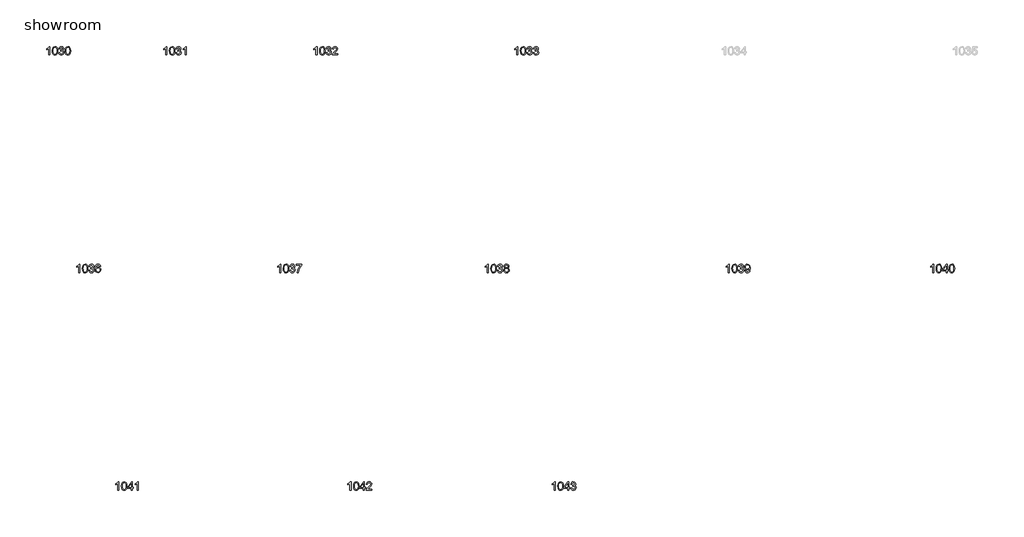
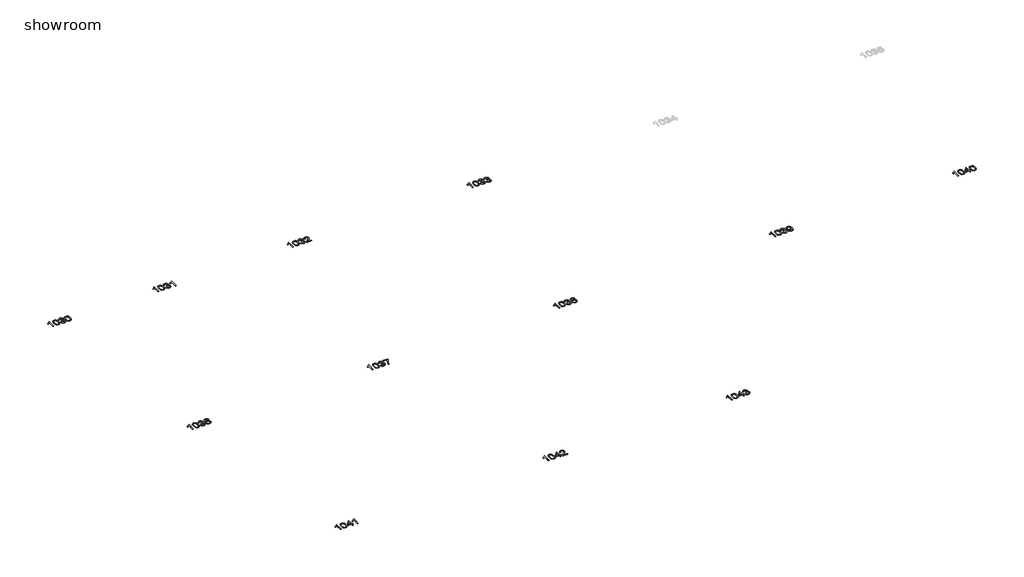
# One storey, part 1 of 2: 12 proxies.
"""IFC4 building model written with IfcOpenShell, lengths in millimetres."""

from ifc_helpers import new_model, si_unit, origin, origin_with_axes, place, context, project, spatial, polyline, outline, extrude, element, save

model = new_model("IFC4")

# Units and contexts
model_context = context("Model", 3, world=origin())
ifc_project = project(units=[si_unit("LENGTHUNIT", "METRE", prefix="MILLI")], contexts=[model_context])

# Site, building, storey
site = spatial("IfcSite", under=ifc_project)
building = spatial("IfcBuilding", under=site)
storey = spatial("IfcBuildingStorey", under=building, Name="showroom", Elevation=0.0)

# Proxies
placement = place(None, origin())
element("IfcBuildingElementProxy", 1, Name="100mm Arial", ObjectType="100mm Arial", at=placement, inside=storey, context=model_context, shape_type="SweptSolid", body=[
    extrude(outline(polyline([(-1708.1109609, 1015.1020807), (-1720.6679996, 1015.1020807), (-1720.6679996, 1093.3873692), (-1732.5628508, 1084.9138206), (-1745.7820772, 1078.5739876), (-1745.7820772, 1090.4443133), (-1727.3757147, 1102.1920117), (-1716.2043648, 1115.5583908), (-1708.1109609, 1115.5583908), (-1708.1109609, 1015.1020807)])), origin_with_axes(), (0.0, 0.0, 1.0), 2.0),
    extrude(outline(polyline([(-1678.2879938, 1064.5208954), (-1674.5969111, 1093.4241574), (-1663.6340277, 1110.0892118), (-1645.325767, 1115.5583908), (-1630.6595382, 1112.3210293), (-1620.5305206, 1102.9890893), (-1614.6444086, 1088.1266567), (-1612.3635403, 1064.5208954), (-1616.0178347, 1035.7402606), (-1626.94393, 1019.038418), (-1635.1752896, 1014.9089426), (-1645.325767, 1013.5324508), (-1658.3733151, 1015.9236838), (-1668.2816035, 1023.0973827), (-1675.7863962, 1040.0873995), (-1678.2879938, 1064.5208954)]), holes=[polyline([(-1665.730955, 1064.5454208), (-1664.259427, 1044.7932234), (-1659.8448431, 1033.3612904), (-1653.2720181, 1027.9074398), (-1645.325767, 1026.0894896), (-1637.3795159, 1027.9135712), (-1630.806691, 1033.3858158), (-1626.392107, 1044.8238802), (-1624.920579, 1064.5454208), (-1626.3430561, 1083.8530942), (-1630.6104872, 1095.373932), (-1637.1710495, 1101.094497), (-1645.4729198, 1103.0013521), (-1653.3333318, 1101.3213576), (-1659.6486394, 1096.2813743), (-1664.2103761, 1084.0431666), (-1665.730955, 1064.5454208)])]), origin_with_axes(), (0.0, 0.0, 1.0), 2.0),
    extrude(outline(polyline([(-1601.3761313, 1041.7857881), (-1588.8190926, 1043.3554179), (-1581.8906483, 1030.1361915), (-1568.9289394, 1026.0894896), (-1560.3205007, 1027.4813098), (-1553.6740993, 1031.6567705), (-1548.0087166, 1045.4400825), (-1553.6250484, 1058.426317), (-1567.8988698, 1063.5644022), (-1576.7035122, 1062.1909761), (-1575.3055606, 1074.7480148), (-1573.2944724, 1074.600862), (-1559.0451764, 1078.2061056), (-1554.2994987, 1082.7801051), (-1552.7176061, 1089.2916164), (-1557.3038683, 1099.1140656), (-1569.1251431, 1103.0013521), (-1581.0935707, 1099.0772774), (-1587.2494627, 1087.3050536), (-1599.8065015, 1088.8746834), (-1596.1092874, 1100.1502666), (-1589.5303311, 1108.5686329), (-1580.5294849, 1113.8109513), (-1569.5666015, 1115.5583908), (-1554.422126, 1112.1125628), (-1543.8271246, 1102.6947837), (-1540.1605673, 1090.0273804), (-1543.6431836, 1078.4513602), (-1553.9438794, 1070.1372272), (-1540.2586692, 1061.5533139), (-1535.4516778, 1045.2193533), (-1537.8551735, 1032.9811456), (-1545.0656606, 1022.7540262), (-1555.9488363, 1015.8378447), (-1569.3703978, 1013.5324508), (-1581.5105036, 1015.5006195), (-1591.3942665, 1021.4051255), (-1598.2675285, 1030.4366285), (-1601.3761313, 1041.7857881)])), origin_with_axes(), (0.0, 0.0, 1.0), 2.0),
    extrude(outline(polyline([(-1524.4642689, 1064.5208954), (-1520.7731862, 1093.4241574), (-1509.8103027, 1110.0892118), (-1491.5020421, 1115.5583908), (-1476.8358132, 1112.3210293), (-1466.7067956, 1102.9890893), (-1460.8206837, 1088.1266567), (-1458.5398153, 1064.5208954), (-1462.1941098, 1035.7402606), (-1473.1202051, 1019.038418), (-1481.3515647, 1014.9089426), (-1491.5020421, 1013.5324508), (-1504.5495902, 1015.9236838), (-1514.4578786, 1023.0973827), (-1521.9626713, 1040.0873995), (-1524.4642689, 1064.5208954)]), holes=[polyline([(-1511.9072301, 1064.5454208), (-1510.4357021, 1044.7932234), (-1506.0211182, 1033.3612904), (-1499.4482932, 1027.9074398), (-1491.5020421, 1026.0894896), (-1483.555791, 1027.9135712), (-1476.982966, 1033.3858158), (-1472.5683821, 1044.8238802), (-1471.0968541, 1064.5454208), (-1472.5193312, 1083.8530942), (-1476.7867623, 1095.373932), (-1483.3473246, 1101.094497), (-1491.6491949, 1103.0013521), (-1499.5096069, 1101.3213576), (-1505.8249145, 1096.2813743), (-1510.3866512, 1084.0431666), (-1511.9072301, 1064.5454208)])]), origin_with_axes(), (0.0, 0.0, 1.0), 2.0),
])
element("IfcBuildingElementProxy", 2, Name="100mm Arial", ObjectType="100mm Arial", at=placement, inside=storey, context=model_context, shape_type="SweptSolid", body=[
    extrude(outline(polyline([(-308.1109609, 1015.1020807), (-320.6679996, 1015.1020807), (-320.6679996, 1093.3873692), (-332.5628508, 1084.9138206), (-345.7820772, 1078.5739876), (-345.7820772, 1090.4443133), (-327.3757147, 1102.1920117), (-316.2043648, 1115.5583908), (-308.1109609, 1115.5583908), (-308.1109609, 1015.1020807)])), origin_with_axes(), (0.0, 0.0, 1.0), 2.0),
    extrude(outline(polyline([(-278.2879938, 1064.5208954), (-274.5969111, 1093.4241574), (-263.6340277, 1110.0892118), (-245.325767, 1115.5583908), (-230.6595382, 1112.3210293), (-220.5305206, 1102.9890893), (-214.6444086, 1088.1266567), (-212.3635403, 1064.5208954), (-216.0178347, 1035.7402606), (-226.94393, 1019.038418), (-235.1752896, 1014.9089426), (-245.325767, 1013.5324508), (-258.3733151, 1015.9236838), (-268.2816035, 1023.0973827), (-275.7863962, 1040.0873995), (-278.2879938, 1064.5208954)]), holes=[polyline([(-265.730955, 1064.5454208), (-264.259427, 1044.7932234), (-259.8448431, 1033.3612904), (-253.2720181, 1027.9074398), (-245.325767, 1026.0894896), (-237.3795159, 1027.9135712), (-230.806691, 1033.3858158), (-226.392107, 1044.8238802), (-224.920579, 1064.5454208), (-226.3430561, 1083.8530942), (-230.6104872, 1095.373932), (-237.1710495, 1101.094497), (-245.4729198, 1103.0013521), (-253.3333318, 1101.3213576), (-259.6486394, 1096.2813743), (-264.2103761, 1084.0431666), (-265.730955, 1064.5454208)])]), origin_with_axes(), (0.0, 0.0, 1.0), 2.0),
    extrude(outline(polyline([(-201.3761313, 1041.7857881), (-188.8190926, 1043.3554179), (-181.8906483, 1030.1361915), (-168.9289394, 1026.0894896), (-160.3205007, 1027.4813098), (-153.6740993, 1031.6567705), (-148.0087166, 1045.4400825), (-153.6250484, 1058.426317), (-167.8988698, 1063.5644022), (-176.7035122, 1062.1909761), (-175.3055606, 1074.7480148), (-173.2944724, 1074.600862), (-159.0451764, 1078.2061056), (-154.2994987, 1082.7801051), (-152.7176061, 1089.2916164), (-157.3038683, 1099.1140656), (-169.1251431, 1103.0013521), (-181.0935707, 1099.0772774), (-187.2494627, 1087.3050536), (-199.8065015, 1088.8746834), (-196.1092874, 1100.1502666), (-189.5303311, 1108.5686329), (-180.5294849, 1113.8109513), (-169.5666015, 1115.5583908), (-154.422126, 1112.1125628), (-143.8271246, 1102.6947837), (-140.1605673, 1090.0273804), (-143.6431836, 1078.4513602), (-153.9438794, 1070.1372272), (-140.2586692, 1061.5533139), (-135.4516778, 1045.2193533), (-137.8551735, 1032.9811456), (-145.0656606, 1022.7540262), (-155.9488363, 1015.8378447), (-169.3703978, 1013.5324508), (-181.5105036, 1015.5006195), (-191.3942665, 1021.4051255), (-198.2675285, 1030.4366285), (-201.3761313, 1041.7857881)])), origin_with_axes(), (0.0, 0.0, 1.0), 2.0),
    extrude(outline(polyline([(-77.3753735, 1015.1020807), (-89.9324123, 1015.1020807), (-89.9324123, 1093.3873692), (-101.8272634, 1084.9138206), (-115.0464898, 1078.5739876), (-115.0464898, 1090.4443133), (-96.6401273, 1102.1920117), (-85.4687774, 1115.5583908), (-77.3753735, 1115.5583908), (-77.3753735, 1015.1020807)])), origin_with_axes(), (0.0, 0.0, 1.0), 2.0),
])
element("IfcBuildingElementProxy", 3, Name="100mm Arial", ObjectType="100mm Arial", at=placement, inside=storey, context=model_context, shape_type="SweptSolid", body=[
    extrude(outline(polyline([(1485.5442765, 1015.1020807), (1472.9872377, 1015.1020807), (1472.9872377, 1093.3873692), (1461.0923866, 1084.9138206), (1447.8731602, 1078.5739876), (1447.8731602, 1090.4443133), (1466.2795227, 1102.1920117), (1477.4508726, 1115.5583908), (1485.5442765, 1115.5583908), (1485.5442765, 1015.1020807)])), origin_with_axes(), (0.0, 0.0, 1.0), 2.0),
    extrude(outline(polyline([(1515.3672436, 1064.5208954), (1519.0583263, 1093.4241574), (1530.0212097, 1110.0892118), (1548.3294703, 1115.5583908), (1562.9956992, 1112.3210293), (1573.1247168, 1102.9890893), (1579.0108287, 1088.1266567), (1581.2916971, 1064.5208954), (1577.6374026, 1035.7402606), (1566.7113074, 1019.038418), (1558.4799477, 1014.9089426), (1548.3294703, 1013.5324508), (1535.2819223, 1015.9236838), (1525.3736338, 1023.0973827), (1517.8688411, 1040.0873995), (1515.3672436, 1064.5208954)]), holes=[polyline([(1527.9242823, 1064.5454208), (1529.3958103, 1044.7932234), (1533.8103943, 1033.3612904), (1540.3832193, 1027.9074398), (1548.3294703, 1026.0894896), (1556.2757214, 1027.9135712), (1562.8485464, 1033.3858158), (1567.2631304, 1044.8238802), (1568.7346583, 1064.5454208), (1567.3121813, 1083.8530942), (1563.0447502, 1095.373932), (1556.4841879, 1101.094497), (1548.1823175, 1103.0013521), (1540.3219056, 1101.3213576), (1534.006598, 1096.2813743), (1529.4448613, 1084.0431666), (1527.9242823, 1064.5454208)])]), origin_with_axes(), (0.0, 0.0, 1.0), 2.0),
    extrude(outline(polyline([(1592.279106, 1041.7857881), (1604.8361448, 1043.3554179), (1611.764589, 1030.1361915), (1624.726298, 1026.0894896), (1633.3347367, 1027.4813098), (1639.9811381, 1031.6567705), (1645.6465208, 1045.4400825), (1640.030189, 1058.426317), (1625.7563676, 1063.5644022), (1616.9517252, 1062.1909761), (1618.3496768, 1074.7480148), (1620.360765, 1074.600862), (1634.610061, 1078.2061056), (1639.3557387, 1082.7801051), (1640.9376313, 1089.2916164), (1636.3513691, 1099.1140656), (1624.5300943, 1103.0013521), (1612.5616667, 1099.0772774), (1606.4057747, 1087.3050536), (1593.8487359, 1088.8746834), (1597.5459499, 1100.1502666), (1604.1249063, 1108.5686329), (1613.1257524, 1113.8109513), (1624.0886359, 1115.5583908), (1639.2331114, 1112.1125628), (1649.8281128, 1102.6947837), (1653.49467, 1090.0273804), (1650.0120538, 1078.4513602), (1639.7113579, 1070.1372272), (1653.3965682, 1061.5533139), (1658.2035596, 1045.2193533), (1655.8000639, 1032.9811456), (1648.5895768, 1022.7540262), (1637.7064011, 1015.8378447), (1624.2848396, 1013.5324508), (1612.1447338, 1015.5006195), (1602.2609708, 1021.4051255), (1595.3877089, 1030.4366285), (1592.279106, 1041.7857881)])), origin_with_axes(), (0.0, 0.0, 1.0), 2.0),
    extrude(outline(polyline([(1733.5457922, 1027.6591194), (1733.5457922, 1015.1020807), (1667.6213387, 1015.1020807), (1668.9702393, 1023.7595703), (1676.5976593, 1037.0891613), (1692.3184833, 1051.6450255), (1713.9989955, 1072.5652483), (1719.4191236, 1086.7900188), (1714.3055638, 1098.3047252), (1700.9514474, 1103.0013521), (1687.0332453, 1098.4150898), (1681.7480073, 1085.7354237), (1669.1909685, 1087.3050536), (1672.235192, 1099.4512908), (1678.817214, 1108.3233782), (1688.5936781, 1113.7496377), (1701.2212275, 1115.5583908), (1713.9407475, 1113.5473026), (1723.6988174, 1107.5140379), (1729.9068261, 1098.500929), (1731.9761623, 1087.5503083), (1729.7443449, 1075.6431943), (1722.3253913, 1063.3314102), (1704.3359618, 1046.1267956), (1689.8904621, 1034.0480034), (1684.2250794, 1027.6591194), (1733.5457922, 1027.6591194)])), origin_with_axes(), (0.0, 0.0, 1.0), 2.0),
])
element("IfcBuildingElementProxy", 4, Name="100mm Arial", ObjectType="100mm Arial", at=placement, inside=storey, context=model_context, shape_type="SweptSolid", body=[
    extrude(outline(polyline([(3885.5442765, 1015.1020807), (3872.9872377, 1015.1020807), (3872.9872377, 1093.3873692), (3861.0923866, 1084.9138206), (3847.8731602, 1078.5739876), (3847.8731602, 1090.4443133), (3866.2795227, 1102.1920117), (3877.4508726, 1115.5583908), (3885.5442765, 1115.5583908), (3885.5442765, 1015.1020807)])), origin_with_axes(), (0.0, 0.0, 1.0), 2.0),
    extrude(outline(polyline([(3915.3672436, 1064.5208954), (3919.0583263, 1093.4241574), (3930.0212097, 1110.0892118), (3948.3294703, 1115.5583908), (3962.9956992, 1112.3210293), (3973.1247168, 1102.9890893), (3979.0108287, 1088.1266567), (3981.2916971, 1064.5208954), (3977.6374026, 1035.7402606), (3966.7113074, 1019.038418), (3958.4799477, 1014.9089426), (3948.3294703, 1013.5324508), (3935.2819223, 1015.9236838), (3925.3736338, 1023.0973827), (3917.8688411, 1040.0873995), (3915.3672436, 1064.5208954)]), holes=[polyline([(3927.9242823, 1064.5454208), (3929.3958103, 1044.7932234), (3933.8103943, 1033.3612904), (3940.3832193, 1027.9074398), (3948.3294703, 1026.0894896), (3956.2757214, 1027.9135712), (3962.8485464, 1033.3858158), (3967.2631304, 1044.8238802), (3968.7346583, 1064.5454208), (3967.3121813, 1083.8530942), (3963.0447502, 1095.373932), (3956.4841879, 1101.094497), (3948.1823175, 1103.0013521), (3940.3219056, 1101.3213576), (3934.006598, 1096.2813743), (3929.4448613, 1084.0431666), (3927.9242823, 1064.5454208)])]), origin_with_axes(), (0.0, 0.0, 1.0), 2.0),
    extrude(outline(polyline([(3992.279106, 1041.7857881), (4004.8361448, 1043.3554179), (4011.764589, 1030.1361915), (4024.726298, 1026.0894896), (4033.3347367, 1027.4813098), (4039.9811381, 1031.6567705), (4045.6465208, 1045.4400825), (4040.030189, 1058.426317), (4025.7563676, 1063.5644022), (4016.9517252, 1062.1909761), (4018.3496768, 1074.7480148), (4020.360765, 1074.600862), (4034.610061, 1078.2061056), (4039.3557387, 1082.7801051), (4040.9376313, 1089.2916164), (4036.3513691, 1099.1140656), (4024.5300943, 1103.0013521), (4012.5616667, 1099.0772774), (4006.4057747, 1087.3050536), (3993.8487359, 1088.8746834), (3997.5459499, 1100.1502666), (4004.1249063, 1108.5686329), (4013.1257524, 1113.8109513), (4024.0886359, 1115.5583908), (4039.2331114, 1112.1125628), (4049.8281128, 1102.6947837), (4053.49467, 1090.0273804), (4050.0120538, 1078.4513602), (4039.7113579, 1070.1372272), (4053.3965682, 1061.5533139), (4058.2035596, 1045.2193533), (4055.8000639, 1032.9811456), (4048.5895768, 1022.7540262), (4037.7064011, 1015.8378447), (4024.2848396, 1013.5324508), (4012.1447338, 1015.5006195), (4002.2609708, 1021.4051255), (3995.3877089, 1030.4366285), (3992.279106, 1041.7857881)])), origin_with_axes(), (0.0, 0.0, 1.0), 2.0),
    extrude(outline(polyline([(4069.1909685, 1041.7857881), (4081.7480073, 1043.3554179), (4088.6764515, 1030.1361915), (4101.6381605, 1026.0894896), (4110.2465992, 1027.4813098), (4116.8930005, 1031.6567705), (4122.5583833, 1045.4400825), (4116.9420515, 1058.426317), (4102.6682301, 1063.5644022), (4093.8635876, 1062.1909761), (4095.2615392, 1074.7480148), (4097.2726275, 1074.600862), (4111.5219234, 1078.2061056), (4116.2676011, 1082.7801051), (4117.8494937, 1089.2916164), (4113.2632315, 1099.1140656), (4101.4419567, 1103.0013521), (4089.4735292, 1099.0772774), (4083.3176371, 1087.3050536), (4070.7605983, 1088.8746834), (4074.4578124, 1100.1502666), (4081.0367687, 1108.5686329), (4090.0376149, 1113.8109513), (4101.0004983, 1115.5583908), (4116.1449738, 1112.1125628), (4126.7399753, 1102.6947837), (4130.4065325, 1090.0273804), (4126.9239163, 1078.4513602), (4116.6232204, 1070.1372272), (4130.3084306, 1061.5533139), (4135.115422, 1045.2193533), (4132.7119263, 1032.9811456), (4125.5014392, 1022.7540262), (4114.6182635, 1015.8378447), (4101.1967021, 1013.5324508), (4089.0565962, 1015.5006195), (4079.1728333, 1021.4051255), (4072.2995714, 1030.4366285), (4069.1909685, 1041.7857881)])), origin_with_axes(), (0.0, 0.0, 1.0), 2.0),
])
element("IfcBuildingElementProxy", 5, Name="100mm Arial", ObjectType="100mm Arial", at=placement, inside=storey, context=model_context, shape_type="SweptSolid", body=[
    extrude(outline(polyline([(-1348.1109609, -1584.8979193), (-1360.6679996, -1584.8979193), (-1360.6679996, -1506.6126308), (-1372.5628508, -1515.0861794), (-1385.7820772, -1521.4260124), (-1385.7820772, -1509.5556867), (-1367.3757147, -1497.8079883), (-1356.2043648, -1484.4416092), (-1348.1109609, -1484.4416092), (-1348.1109609, -1584.8979193)])), origin_with_axes(), (0.0, 0.0, 1.0), 2.0),
    extrude(outline(polyline([(-1318.2879938, -1535.4791046), (-1314.5969111, -1506.5758426), (-1303.6340277, -1489.9107882), (-1285.325767, -1484.4416092), (-1270.6595382, -1487.6789707), (-1260.5305206, -1497.0109107), (-1254.6444086, -1511.8733433), (-1252.3635403, -1535.4791046), (-1256.0178347, -1564.2597394), (-1266.94393, -1580.961582), (-1275.1752896, -1585.0910574), (-1285.325767, -1586.4675492), (-1298.3733151, -1584.0763162), (-1308.2816035, -1576.9026173), (-1315.7863962, -1559.9126005), (-1318.2879938, -1535.4791046)]), holes=[polyline([(-1305.730955, -1535.4545792), (-1304.259427, -1555.2067766), (-1299.8448431, -1566.6387096), (-1293.2720181, -1572.0925602), (-1285.325767, -1573.9105104), (-1277.3795159, -1572.0864288), (-1270.806691, -1566.6141842), (-1266.392107, -1555.1761198), (-1264.920579, -1535.4545792), (-1266.3430561, -1516.1469058), (-1270.6104872, -1504.626068), (-1277.1710495, -1498.905503), (-1285.4729198, -1496.9986479), (-1293.3333318, -1498.6786424), (-1299.6486394, -1503.7186257), (-1304.2103761, -1515.9568334), (-1305.730955, -1535.4545792)])]), origin_with_axes(), (0.0, 0.0, 1.0), 2.0),
    extrude(outline(polyline([(-1241.3761313, -1558.2142119), (-1228.8190926, -1556.6445821), (-1221.8906483, -1569.8638085), (-1208.9289394, -1573.9105104), (-1200.3205007, -1572.5186902), (-1193.6740993, -1568.3432295), (-1188.0087166, -1554.5599175), (-1193.6250484, -1541.573683), (-1207.8988698, -1536.4355978), (-1216.7035122, -1537.8090239), (-1215.3055606, -1525.2519852), (-1213.2944724, -1525.399138), (-1199.0451764, -1521.7938944), (-1194.2994987, -1517.2198949), (-1192.7176061, -1510.7083836), (-1197.3038683, -1500.8859344), (-1209.1251431, -1496.9986479), (-1221.0935707, -1500.9227226), (-1227.2494627, -1512.6949464), (-1239.8065015, -1511.1253166), (-1236.1092874, -1499.8497334), (-1229.5303311, -1491.4313671), (-1220.5294849, -1486.1890487), (-1209.5666015, -1484.4416092), (-1194.422126, -1487.8874372), (-1183.8271246, -1497.3052163), (-1180.1605673, -1509.9726196), (-1183.6431836, -1521.5486398), (-1193.9438794, -1529.8627728), (-1180.2586692, -1538.4466861), (-1175.4516778, -1554.7806467), (-1177.8551735, -1567.0188544), (-1185.0656606, -1577.2459738), (-1195.9488363, -1584.1621553), (-1209.3703978, -1586.4675492), (-1221.5105036, -1584.4993805), (-1231.3942665, -1578.5948745), (-1238.2675285, -1569.5633715), (-1241.3761313, -1558.2142119)])), origin_with_axes(), (0.0, 0.0, 1.0), 2.0),
    extrude(outline(polyline([(-1100.1094452, -1511.1253166), (-1112.666484, -1512.6949464), (-1117.4244244, -1502.2225723), (-1130.0059887, -1496.9986479), (-1141.3367541, -1500.0398058), (-1149.9084046, -1511.4564104), (-1153.47686, -1533.8358984), (-1142.4036119, -1523.8172454), (-1128.6816135, -1520.5430956), (-1117.0810679, -1522.7810444), (-1107.3444578, -1529.4948909), (-1100.740976, -1539.7526672), (-1098.5398153, -1552.6224056), (-1102.6846192, -1569.9496476), (-1114.088961, -1582.2123808), (-1130.5455489, -1586.4675492), (-1144.7917792, -1583.6471205), (-1156.1378731, -1575.1858347), (-1163.5598923, -1560.2498257), (-1166.0338987, -1538.0052277), (-1163.2870465, -1512.9953834), (-1155.0464898, -1495.895002), (-1143.7954321, -1487.3049574), (-1129.2211737, -1484.4416092), (-1118.203108, -1486.2135741), (-1109.3800715, -1491.529469), (-1103.199654, -1499.9723607), (-1100.1094452, -1511.1253166)]), holes=[polyline([(-1153.47686, -1552.4262019), (-1150.5705922, -1563.3032462), (-1142.8450703, -1571.2004464), (-1131.5265676, -1573.9105104), (-1123.2400256, -1572.5064275), (-1116.7254486, -1568.2941786), (-1112.5040027, -1561.6723027), (-1111.0968541, -1553.0393385), (-1112.4856086, -1544.7527966), (-1116.6518722, -1538.4344233), (-1123.2768138, -1534.4337066), (-1132.0416024, -1533.1001344), (-1147.2351288, -1538.4344233), (-1151.9164272, -1544.5995124), (-1153.47686, -1552.4262019)])]), origin_with_axes(), (0.0, 0.0, 1.0), 2.0),
])
element("IfcBuildingElementProxy", 6, Name="100mm Arial", ObjectType="100mm Arial", at=placement, inside=storey, context=model_context, shape_type="SweptSolid", body=[
    extrude(outline(polyline([(1051.8890391, -1584.8979193), (1039.3320004, -1584.8979193), (1039.3320004, -1506.6126308), (1027.4371492, -1515.0861794), (1014.2179228, -1521.4260124), (1014.2179228, -1509.5556867), (1032.6242853, -1497.8079883), (1043.7956352, -1484.4416092), (1051.8890391, -1484.4416092), (1051.8890391, -1584.8979193)])), origin_with_axes(), (0.0, 0.0, 1.0), 2.0),
    extrude(outline(polyline([(1081.7120062, -1535.4791046), (1085.4030889, -1506.5758426), (1096.3659723, -1489.9107882), (1114.674233, -1484.4416092), (1129.3404618, -1487.6789707), (1139.4694794, -1497.0109107), (1145.3555914, -1511.8733433), (1147.6364597, -1535.4791046), (1143.9821653, -1564.2597394), (1133.05607, -1580.961582), (1124.8247104, -1585.0910574), (1114.674233, -1586.4675492), (1101.6266849, -1584.0763162), (1091.7183965, -1576.9026173), (1084.2136038, -1559.9126005), (1081.7120062, -1535.4791046)]), holes=[polyline([(1094.269045, -1535.4545792), (1095.740573, -1555.2067766), (1100.1551569, -1566.6387096), (1106.7279819, -1572.0925602), (1114.674233, -1573.9105104), (1122.6204841, -1572.0864288), (1129.193309, -1566.6141842), (1133.607893, -1555.1761198), (1135.079421, -1535.4545792), (1133.6569439, -1516.1469058), (1129.3895128, -1504.626068), (1122.8289505, -1498.905503), (1114.5270802, -1496.9986479), (1106.6666682, -1498.6786424), (1100.3513606, -1503.7186257), (1095.7896239, -1515.9568334), (1094.269045, -1535.4545792)])]), origin_with_axes(), (0.0, 0.0, 1.0), 2.0),
    extrude(outline(polyline([(1158.6238687, -1558.2142119), (1171.1809074, -1556.6445821), (1178.1093517, -1569.8638085), (1191.0710606, -1573.9105104), (1199.6794993, -1572.5186902), (1206.3259007, -1568.3432295), (1211.9912834, -1554.5599175), (1206.3749516, -1541.573683), (1192.1011302, -1536.4355978), (1183.2964878, -1537.8090239), (1184.6944394, -1525.2519852), (1186.7055276, -1525.399138), (1200.9548236, -1521.7938944), (1205.7005013, -1517.2198949), (1207.2823939, -1510.7083836), (1202.6961317, -1500.8859344), (1190.8748569, -1496.9986479), (1178.9064293, -1500.9227226), (1172.7505373, -1512.6949464), (1160.1934985, -1511.1253166), (1163.8907126, -1499.8497334), (1170.4696689, -1491.4313671), (1179.4705151, -1486.1890487), (1190.4333985, -1484.4416092), (1205.577874, -1487.8874372), (1216.1728754, -1497.3052163), (1219.8394327, -1509.9726196), (1216.3568164, -1521.5486398), (1206.0561206, -1529.8627728), (1219.7413308, -1538.4466861), (1224.5483222, -1554.7806467), (1222.1448265, -1567.0188544), (1214.9343394, -1577.2459738), (1204.0511637, -1584.1621553), (1190.6296022, -1586.4675492), (1178.4894964, -1584.4993805), (1168.6057335, -1578.5948745), (1161.7324715, -1569.5633715), (1158.6238687, -1558.2142119)])), origin_with_axes(), (0.0, 0.0, 1.0), 2.0),
    extrude(outline(polyline([(1235.5357311, -1498.5682778), (1235.5357311, -1486.011239), (1301.4601847, -1486.011239), (1301.4601847, -1496.1647821), (1282.7595166, -1523.1795833), (1268.448907, -1557.6010753), (1263.7890683, -1584.8979193), (1251.2320296, -1584.8979193), (1256.222962, -1556.5710057), (1269.9204349, -1524.5530094), (1288.9031459, -1498.5682778), (1235.5357311, -1498.5682778)])), origin_with_axes(), (0.0, 0.0, 1.0), 2.0),
])
element("IfcBuildingElementProxy", 7, Name="100mm Arial", ObjectType="100mm Arial", at=placement, inside=storey, context=model_context, shape_type="SweptSolid", body=[
    extrude(outline(polyline([(3531.8890391, -1584.8979193), (3519.3320004, -1584.8979193), (3519.3320004, -1506.6126308), (3507.4371492, -1515.0861794), (3494.2179228, -1521.4260124), (3494.2179228, -1509.5556867), (3512.6242853, -1497.8079883), (3523.7956352, -1484.4416092), (3531.8890391, -1484.4416092), (3531.8890391, -1584.8979193)])), origin_with_axes(), (0.0, 0.0, 1.0), 2.0),
    extrude(outline(polyline([(3561.7120062, -1535.4791046), (3565.4030889, -1506.5758426), (3576.3659723, -1489.9107882), (3594.674233, -1484.4416092), (3609.3404618, -1487.6789707), (3619.4694794, -1497.0109107), (3625.3555914, -1511.8733433), (3627.6364597, -1535.4791046), (3623.9821653, -1564.2597394), (3613.05607, -1580.961582), (3604.8247104, -1585.0910574), (3594.674233, -1586.4675492), (3581.6266849, -1584.0763162), (3571.7183965, -1576.9026173), (3564.2136038, -1559.9126005), (3561.7120062, -1535.4791046)]), holes=[polyline([(3574.269045, -1535.4545792), (3575.740573, -1555.2067766), (3580.1551569, -1566.6387096), (3586.7279819, -1572.0925602), (3594.674233, -1573.9105104), (3602.6204841, -1572.0864288), (3609.193309, -1566.6141842), (3613.607893, -1555.1761198), (3615.079421, -1535.4545792), (3613.6569439, -1516.1469058), (3609.3895128, -1504.626068), (3602.8289505, -1498.905503), (3594.5270802, -1496.9986479), (3586.6666682, -1498.6786424), (3580.3513606, -1503.7186257), (3575.7896239, -1515.9568334), (3574.269045, -1535.4545792)])]), origin_with_axes(), (0.0, 0.0, 1.0), 2.0),
    extrude(outline(polyline([(3638.6238687, -1558.2142119), (3651.1809074, -1556.6445821), (3658.1093517, -1569.8638085), (3671.0710606, -1573.9105104), (3679.6794993, -1572.5186902), (3686.3259007, -1568.3432295), (3691.9912834, -1554.5599175), (3686.3749516, -1541.573683), (3672.1011302, -1536.4355978), (3663.2964878, -1537.8090239), (3664.6944394, -1525.2519852), (3666.7055276, -1525.399138), (3680.9548236, -1521.7938944), (3685.7005013, -1517.2198949), (3687.2823939, -1510.7083836), (3682.6961317, -1500.8859344), (3670.8748569, -1496.9986479), (3658.9064293, -1500.9227226), (3652.7505373, -1512.6949464), (3640.1934985, -1511.1253166), (3643.8907126, -1499.8497334), (3650.4696689, -1491.4313671), (3659.4705151, -1486.1890487), (3670.4333985, -1484.4416092), (3685.577874, -1487.8874372), (3696.1728754, -1497.3052163), (3699.8394327, -1509.9726196), (3696.3568164, -1521.5486398), (3686.0561206, -1529.8627728), (3699.7413308, -1538.4466861), (3704.5483222, -1554.7806467), (3702.1448265, -1567.0188544), (3694.9343394, -1577.2459738), (3684.0511637, -1584.1621553), (3670.6296022, -1586.4675492), (3658.4894964, -1584.4993805), (3648.6057335, -1578.5948745), (3641.7324715, -1569.5633715), (3638.6238687, -1558.2142119)])), origin_with_axes(), (0.0, 0.0, 1.0), 2.0),
    extrude(outline(polyline([(3733.831729, -1529.5684673), (3722.390599, -1521.769369), (3718.6749908, -1509.6292631), (3720.6983418, -1499.8129452), (3726.7683947, -1491.7011472), (3736.2045679, -1486.2564937), (3748.3262796, -1484.4416092), (3760.5215678, -1486.2994133), (3770.0803683, -1491.8728255), (3776.2607858, -1500.1133822), (3778.320925, -1509.9726196), (3774.6543677, -1521.8061572), (3763.5320688, -1529.5684673), (3776.8861852, -1539.415442), (3781.4601847, -1555.6635634), (3779.191579, -1567.6687792), (3772.3857621, -1577.5893304), (3761.8765998, -1584.2479945), (3748.4979579, -1586.4675492), (3735.119316, -1584.2387974), (3724.6101537, -1577.5525422), (3717.8043368, -1567.5369548), (3715.5357311, -1555.3202069), (3720.2936716, -1538.6919407), (3733.831729, -1529.5684673)]), holes=[polyline([(3728.0927699, -1554.8787485), (3730.1896973, -1564.3333158), (3737.6086508, -1571.4089128), (3748.5960598, -1573.9105104), (3757.1431848, -1572.5953323), (3763.5565942, -1568.6497979), (3768.9031459, -1555.271156), (3763.384916, -1541.6349967), (3756.8243537, -1537.5882947), (3748.1791268, -1536.2393941), (3739.7515635, -1537.5699006), (3733.4025334, -1541.5614203), (3728.0927699, -1554.8787485)]), polyline([(3731.2320296, -1509.9971451), (3735.6834017, -1519.8563826), (3748.6451107, -1523.6823553), (3761.3493023, -1519.880908), (3765.7638862, -1510.5612308), (3761.2021495, -1500.9104598), (3748.4979579, -1496.9986479), (3735.7569781, -1500.8246207), (3731.2320296, -1509.9971451)])]), origin_with_axes(), (0.0, 0.0, 1.0), 2.0),
])
element("IfcBuildingElementProxy", 8, Name="100mm Arial", ObjectType="100mm Arial", at=placement, inside=storey, context=model_context, shape_type="SweptSolid", body=[
    extrude(outline(polyline([(6411.8890391, -1584.8979193), (6399.3320004, -1584.8979193), (6399.3320004, -1506.6126308), (6387.4371492, -1515.0861794), (6374.2179228, -1521.4260124), (6374.2179228, -1509.5556867), (6392.6242853, -1497.8079883), (6403.7956352, -1484.4416092), (6411.8890391, -1484.4416092), (6411.8890391, -1584.8979193)])), origin_with_axes(), (0.0, 0.0, 1.0), 2.0),
    extrude(outline(polyline([(6441.7120062, -1535.4791046), (6445.4030889, -1506.5758426), (6456.3659723, -1489.9107882), (6474.674233, -1484.4416092), (6489.3404618, -1487.6789707), (6499.4694794, -1497.0109107), (6505.3555914, -1511.8733433), (6507.6364597, -1535.4791046), (6503.9821653, -1564.2597394), (6493.05607, -1580.961582), (6484.8247104, -1585.0910574), (6474.674233, -1586.4675492), (6461.6266849, -1584.0763162), (6451.7183965, -1576.9026173), (6444.2136038, -1559.9126005), (6441.7120062, -1535.4791046)]), holes=[polyline([(6454.269045, -1535.4545792), (6455.740573, -1555.2067766), (6460.1551569, -1566.6387096), (6466.7279819, -1572.0925602), (6474.674233, -1573.9105104), (6482.6204841, -1572.0864288), (6489.193309, -1566.6141842), (6493.607893, -1555.1761198), (6495.079421, -1535.4545792), (6493.6569439, -1516.1469058), (6489.3895128, -1504.626068), (6482.8289505, -1498.905503), (6474.5270802, -1496.9986479), (6466.6666682, -1498.6786424), (6460.3513606, -1503.7186257), (6455.7896239, -1515.9568334), (6454.269045, -1535.4545792)])]), origin_with_axes(), (0.0, 0.0, 1.0), 2.0),
    extrude(outline(polyline([(6518.6238687, -1558.2142119), (6531.1809074, -1556.6445821), (6538.1093517, -1569.8638085), (6551.0710606, -1573.9105104), (6559.6794993, -1572.5186902), (6566.3259007, -1568.3432295), (6571.9912834, -1554.5599175), (6566.3749516, -1541.573683), (6552.1011302, -1536.4355978), (6543.2964878, -1537.8090239), (6544.6944394, -1525.2519852), (6546.7055276, -1525.399138), (6560.9548236, -1521.7938944), (6565.7005013, -1517.2198949), (6567.2823939, -1510.7083836), (6562.6961317, -1500.8859344), (6550.8748569, -1496.9986479), (6538.9064293, -1500.9227226), (6532.7505373, -1512.6949464), (6520.1934985, -1511.1253166), (6523.8907126, -1499.8497334), (6530.4696689, -1491.4313671), (6539.4705151, -1486.1890487), (6550.4333985, -1484.4416092), (6565.577874, -1487.8874372), (6576.1728754, -1497.3052163), (6579.8394327, -1509.9726196), (6576.3568164, -1521.5486398), (6566.0561206, -1529.8627728), (6579.7413308, -1538.4466861), (6584.5483222, -1554.7806467), (6582.1448265, -1567.0188544), (6574.9343394, -1577.2459738), (6564.0511637, -1584.1621553), (6550.6296022, -1586.4675492), (6538.4894964, -1584.4993805), (6528.6057335, -1578.5948745), (6521.7324715, -1569.5633715), (6518.6238687, -1558.2142119)])), origin_with_axes(), (0.0, 0.0, 1.0), 2.0),
    extrude(outline(polyline([(6597.105361, -1559.7838418), (6609.6623997, -1558.2142119), (6615.303257, -1570.1949023), (6625.9963603, -1573.9105104), (6636.1621661, -1571.5192774), (6643.0538222, -1565.1303935), (6647.1618378, -1554.2165609), (6648.9767223, -1539.6484339), (6648.9031459, -1537.1958873), (6638.8599674, -1546.7117682), (6625.0889181, -1550.3660627), (6613.638591, -1548.1342453), (6604.1073816, -1541.438793), (6597.6786437, -1531.0951775), (6595.5357311, -1517.9188707), (6597.782877, -1504.3072369), (6604.5243145, -1493.6386591), (6614.6502665, -1486.7408716), (6627.0509554, -1484.4416092), (6644.9422831, -1489.690059), (6657.2540672, -1504.6505934), (6661.4601847, -1532.7567779), (6657.2663299, -1563.2541953), (6652.0516026, -1573.2452571), (6644.7951303, -1580.5323863), (6635.8096125, -1584.9837585), (6625.4077491, -1586.4675492), (6614.6717262, -1584.717044), (6606.1062071, -1579.4655285), (6600.115862, -1571.0440965), (6597.105361, -1559.7838418)]), holes=[polyline([(6648.9031459, -1517.6245651), (6647.5481139, -1509.1142283), (6643.4830178, -1502.5659288), (6637.1738416, -1498.3904682), (6629.0865691, -1496.9986479), (6620.6988596, -1498.4977671), (6613.9788818, -1502.9951245), (6609.5642979, -1509.8775835), (6608.0927699, -1518.5320074), (6609.4845901, -1526.2912518), (6613.6600507, -1532.4502095), (6620.2144816, -1536.4693203), (6628.7432125, -1537.8090239), (6643.2255004, -1532.4502095), (6647.4837345, -1526.0643912), (6648.9031459, -1517.6245651)])]), origin_with_axes(), (0.0, 0.0, 1.0), 2.0),
])
element("IfcBuildingElementProxy", 9, Name="100mm Arial", ObjectType="100mm Arial", at=placement, inside=storey, context=model_context, shape_type="SweptSolid", body=[
    extrude(outline(polyline([(8851.8890391, -1584.8979193), (8839.3320004, -1584.8979193), (8839.3320004, -1506.6126308), (8827.4371492, -1515.0861794), (8814.2179228, -1521.4260124), (8814.2179228, -1509.5556867), (8832.6242853, -1497.8079883), (8843.7956352, -1484.4416092), (8851.8890391, -1484.4416092), (8851.8890391, -1584.8979193)])), origin_with_axes(), (0.0, 0.0, 1.0), 2.0),
    extrude(outline(polyline([(8881.7120062, -1535.4791046), (8885.4030889, -1506.5758426), (8896.3659723, -1489.9107882), (8914.674233, -1484.4416092), (8929.3404618, -1487.6789707), (8939.4694794, -1497.0109107), (8945.3555914, -1511.8733433), (8947.6364597, -1535.4791046), (8943.9821653, -1564.2597394), (8933.05607, -1580.961582), (8924.8247104, -1585.0910574), (8914.674233, -1586.4675492), (8901.6266849, -1584.0763162), (8891.7183965, -1576.9026173), (8884.2136038, -1559.9126005), (8881.7120062, -1535.4791046)]), holes=[polyline([(8894.269045, -1535.4545792), (8895.740573, -1555.2067766), (8900.1551569, -1566.6387096), (8906.7279819, -1572.0925602), (8914.674233, -1573.9105104), (8922.6204841, -1572.0864288), (8929.193309, -1566.6141842), (8933.607893, -1555.1761198), (8935.079421, -1535.4545792), (8933.6569439, -1516.1469058), (8929.3895128, -1504.626068), (8922.8289505, -1498.905503), (8914.5270802, -1496.9986479), (8906.6666682, -1498.6786424), (8900.3513606, -1503.7186257), (8895.7896239, -1515.9568334), (8894.269045, -1535.4545792)])]), origin_with_axes(), (0.0, 0.0, 1.0), 2.0),
    extrude(outline(polyline([(8999.4342447, -1584.8979193), (8999.4342447, -1561.3534716), (8953.9149791, -1561.3534716), (8953.9149791, -1548.7964329), (9002.5735044, -1486.011239), (9011.9912834, -1486.011239), (9011.9912834, -1548.7964329), (9024.5483222, -1548.7964329), (9024.5483222, -1561.3534716), (9011.9912834, -1561.3534716), (9011.9912834, -1584.8979193), (8999.4342447, -1584.8979193)]), holes=[polyline([(8999.4342447, -1548.7964329), (8999.4342447, -1509.9971451), (8969.3660229, -1548.7964329), (8999.4342447, -1548.7964329)])]), origin_with_axes(), (0.0, 0.0, 1.0), 2.0),
    extrude(outline(polyline([(9035.5357311, -1535.4791046), (9039.2268138, -1506.5758426), (9050.1896973, -1489.9107882), (9068.4979579, -1484.4416092), (9083.1641868, -1487.6789707), (9093.2932044, -1497.0109107), (9099.1793163, -1511.8733433), (9101.4601847, -1535.4791046), (9097.8058902, -1564.2597394), (9086.8797949, -1580.961582), (9078.6484353, -1585.0910574), (9068.4979579, -1586.4675492), (9055.4504098, -1584.0763162), (9045.5421214, -1576.9026173), (9038.0373287, -1559.9126005), (9035.5357311, -1535.4791046)]), holes=[polyline([(9048.0927699, -1535.4545792), (9049.5642979, -1555.2067766), (9053.9788818, -1566.6387096), (9060.5517068, -1572.0925602), (9068.4979579, -1573.9105104), (9076.444209, -1572.0864288), (9083.017034, -1566.6141842), (9087.4316179, -1555.1761198), (9088.9031459, -1535.4545792), (9087.4806688, -1516.1469058), (9083.2132377, -1504.626068), (9076.6526754, -1498.905503), (9068.3508051, -1496.9986479), (9060.4903931, -1498.6786424), (9054.1750855, -1503.7186257), (9049.6133488, -1515.9568334), (9048.0927699, -1535.4545792)])]), origin_with_axes(), (0.0, 0.0, 1.0), 2.0),
])
element("IfcBuildingElementProxy", 10, Name="100mm Arial", ObjectType="100mm Arial", at=placement, inside=storey, context=model_context, shape_type="SweptSolid", body=[
    extrude(outline(polyline([(-880.463511, -4184.8979193), (-893.0205498, -4184.8979193), (-893.0205498, -4106.6126308), (-904.915401, -4115.0861794), (-918.1346273, -4121.4260124), (-918.1346273, -4109.5556867), (-899.7282649, -4097.8079883), (-888.5569149, -4084.4416092), (-880.463511, -4084.4416092), (-880.463511, -4184.8979193)])), origin_with_axes(), (0.0, 0.0, 1.0), 2.0),
    extrude(outline(polyline([(-850.640544, -4135.4791046), (-846.9494613, -4106.5758426), (-835.9865778, -4089.9107882), (-817.6783172, -4084.4416092), (-803.0120883, -4087.6789707), (-792.8830707, -4097.0109107), (-786.9969588, -4111.8733433), (-784.7160904, -4135.4791046), (-788.3703849, -4164.2597394), (-799.2964802, -4180.961582), (-807.5278398, -4185.0910574), (-817.6783172, -4186.4675492), (-830.7258653, -4184.0763162), (-840.6341537, -4176.9026173), (-848.1389464, -4159.9126005), (-850.640544, -4135.4791046)]), holes=[polyline([(-838.0835052, -4135.4545792), (-836.6119772, -4155.2067766), (-832.1973933, -4166.6387096), (-825.6245683, -4172.0925602), (-817.6783172, -4173.9105104), (-809.7320661, -4172.0864288), (-803.1592411, -4166.6141842), (-798.7446572, -4155.1761198), (-797.2731292, -4135.4545792), (-798.6956062, -4116.1469058), (-802.9630374, -4104.626068), (-809.5235996, -4098.905503), (-817.82547, -4096.9986479), (-825.685882, -4098.6786424), (-832.0011895, -4103.7186257), (-836.5629263, -4115.9568334), (-838.0835052, -4135.4545792)])]), origin_with_axes(), (0.0, 0.0, 1.0), 2.0),
    extrude(outline(polyline([(-732.9183055, -4184.8979193), (-732.9183055, -4161.3534716), (-778.437571, -4161.3534716), (-778.437571, -4148.7964329), (-729.7790458, -4086.011239), (-720.3612667, -4086.011239), (-720.3612667, -4148.7964329), (-707.804228, -4148.7964329), (-707.804228, -4161.3534716), (-720.3612667, -4161.3534716), (-720.3612667, -4184.8979193), (-732.9183055, -4184.8979193)]), holes=[polyline([(-732.9183055, -4148.7964329), (-732.9183055, -4109.9971451), (-762.9865272, -4148.7964329), (-732.9183055, -4148.7964329)])]), origin_with_axes(), (0.0, 0.0, 1.0), 2.0),
    extrude(outline(polyline([(-649.7279237, -4184.8979193), (-662.2849624, -4184.8979193), (-662.2849624, -4106.6126308), (-674.1798136, -4115.0861794), (-687.39904, -4121.4260124), (-687.39904, -4109.5556867), (-668.9926775, -4097.8079883), (-657.8213276, -4084.4416092), (-649.7279237, -4084.4416092), (-649.7279237, -4184.8979193)])), origin_with_axes(), (0.0, 0.0, 1.0), 2.0),
])
element("IfcBuildingElementProxy", 11, Name="100mm Arial", ObjectType="100mm Arial", at=placement, inside=storey, context=model_context, shape_type="SweptSolid", body=[
    extrude(outline(polyline([(1891.8890391, -4184.8979193), (1879.3320004, -4184.8979193), (1879.3320004, -4106.6126308), (1867.4371492, -4115.0861794), (1854.2179228, -4121.4260124), (1854.2179228, -4109.5556867), (1872.6242853, -4097.8079883), (1883.7956352, -4084.4416092), (1891.8890391, -4084.4416092), (1891.8890391, -4184.8979193)])), origin_with_axes(), (0.0, 0.0, 1.0), 2.0),
    extrude(outline(polyline([(1921.7120062, -4135.4791046), (1925.4030889, -4106.5758426), (1936.3659723, -4089.9107882), (1954.674233, -4084.4416092), (1969.3404618, -4087.6789707), (1979.4694794, -4097.0109107), (1985.3555914, -4111.8733433), (1987.6364597, -4135.4791046), (1983.9821653, -4164.2597394), (1973.05607, -4180.961582), (1964.8247104, -4185.0910574), (1954.674233, -4186.4675492), (1941.6266849, -4184.0763162), (1931.7183965, -4176.9026173), (1924.2136038, -4159.9126005), (1921.7120062, -4135.4791046)]), holes=[polyline([(1934.269045, -4135.4545792), (1935.740573, -4155.2067766), (1940.1551569, -4166.6387096), (1946.7279819, -4172.0925602), (1954.674233, -4173.9105104), (1962.6204841, -4172.0864288), (1969.193309, -4166.6141842), (1973.607893, -4155.1761198), (1975.079421, -4135.4545792), (1973.6569439, -4116.1469058), (1969.3895128, -4104.626068), (1962.8289505, -4098.905503), (1954.5270802, -4096.9986479), (1946.6666682, -4098.6786424), (1940.3513606, -4103.7186257), (1935.7896239, -4115.9568334), (1934.269045, -4135.4545792)])]), origin_with_axes(), (0.0, 0.0, 1.0), 2.0),
    extrude(outline(polyline([(2039.4342447, -4184.8979193), (2039.4342447, -4161.3534716), (1993.9149791, -4161.3534716), (1993.9149791, -4148.7964329), (2042.5735044, -4086.011239), (2051.9912834, -4086.011239), (2051.9912834, -4148.7964329), (2064.5483222, -4148.7964329), (2064.5483222, -4161.3534716), (2051.9912834, -4161.3534716), (2051.9912834, -4184.8979193), (2039.4342447, -4184.8979193)]), holes=[polyline([(2039.4342447, -4148.7964329), (2039.4342447, -4109.9971451), (2009.3660229, -4148.7964329), (2039.4342447, -4148.7964329)])]), origin_with_axes(), (0.0, 0.0, 1.0), 2.0),
    extrude(outline(polyline([(2139.8905548, -4172.3408806), (2139.8905548, -4184.8979193), (2073.9661013, -4184.8979193), (2075.3150019, -4176.2404297), (2082.942422, -4162.9108387), (2098.6632459, -4148.3549745), (2120.3437581, -4127.4347517), (2125.7638862, -4113.2099812), (2120.6503265, -4101.6952748), (2107.29621, -4096.9986479), (2093.3780079, -4101.5849102), (2088.0927699, -4114.2645763), (2075.5357311, -4112.6949464), (2078.5799546, -4100.5487092), (2085.1619767, -4091.6766218), (2094.9384407, -4086.2503623), (2107.5659902, -4084.4416092), (2120.2855101, -4086.4526974), (2130.0435801, -4092.4859621), (2136.2515887, -4101.499071), (2138.320925, -4112.4496917), (2136.0891075, -4124.3568057), (2128.670154, -4136.6685898), (2110.6807244, -4153.8732044), (2096.2352247, -4165.9519966), (2090.569842, -4172.3408806), (2139.8905548, -4172.3408806)])), origin_with_axes(), (0.0, 0.0, 1.0), 2.0),
])
element("IfcBuildingElementProxy", 12, Name="100mm Arial", ObjectType="100mm Arial", at=placement, inside=storey, context=model_context, shape_type="SweptSolid", body=[
    extrude(outline(polyline([(4331.8890391, -4184.8979193), (4319.3320004, -4184.8979193), (4319.3320004, -4106.6126308), (4307.4371492, -4115.0861794), (4294.2179228, -4121.4260124), (4294.2179228, -4109.5556867), (4312.6242853, -4097.8079883), (4323.7956352, -4084.4416092), (4331.8890391, -4084.4416092), (4331.8890391, -4184.8979193)])), origin_with_axes(), (0.0, 0.0, 1.0), 2.0),
    extrude(outline(polyline([(4361.7120062, -4135.4791046), (4365.4030889, -4106.5758426), (4376.3659723, -4089.9107882), (4394.674233, -4084.4416092), (4409.3404618, -4087.6789707), (4419.4694794, -4097.0109107), (4425.3555914, -4111.8733433), (4427.6364597, -4135.4791046), (4423.9821653, -4164.2597394), (4413.05607, -4180.961582), (4404.8247104, -4185.0910574), (4394.674233, -4186.4675492), (4381.6266849, -4184.0763162), (4371.7183965, -4176.9026173), (4364.2136038, -4159.9126005), (4361.7120062, -4135.4791046)]), holes=[polyline([(4374.269045, -4135.4545792), (4375.740573, -4155.2067766), (4380.1551569, -4166.6387096), (4386.7279819, -4172.0925602), (4394.674233, -4173.9105104), (4402.6204841, -4172.0864288), (4409.193309, -4166.6141842), (4413.607893, -4155.1761198), (4415.079421, -4135.4545792), (4413.6569439, -4116.1469058), (4409.3895128, -4104.626068), (4402.8289505, -4098.905503), (4394.5270802, -4096.9986479), (4386.6666682, -4098.6786424), (4380.3513606, -4103.7186257), (4375.7896239, -4115.9568334), (4374.269045, -4135.4545792)])]), origin_with_axes(), (0.0, 0.0, 1.0), 2.0),
    extrude(outline(polyline([(4479.4342447, -4184.8979193), (4479.4342447, -4161.3534716), (4433.9149791, -4161.3534716), (4433.9149791, -4148.7964329), (4482.5735044, -4086.011239), (4491.9912834, -4086.011239), (4491.9912834, -4148.7964329), (4504.5483222, -4148.7964329), (4504.5483222, -4161.3534716), (4491.9912834, -4161.3534716), (4491.9912834, -4184.8979193), (4479.4342447, -4184.8979193)]), holes=[polyline([(4479.4342447, -4148.7964329), (4479.4342447, -4109.9971451), (4449.3660229, -4148.7964329), (4479.4342447, -4148.7964329)])]), origin_with_axes(), (0.0, 0.0, 1.0), 2.0),
    extrude(outline(polyline([(4515.5357311, -4158.2142119), (4528.0927699, -4156.6445821), (4535.0212141, -4169.8638085), (4547.9829231, -4173.9105104), (4556.5913618, -4172.5186902), (4563.2377632, -4168.3432295), (4568.9031459, -4154.5599175), (4563.2868141, -4141.573683), (4549.0129927, -4136.4355978), (4540.2083503, -4137.8090239), (4541.6063018, -4125.2519852), (4543.6173901, -4125.399138), (4557.866686, -4121.7938944), (4562.6123638, -4117.2198949), (4564.1942563, -4110.7083836), (4559.6079941, -4100.8859344), (4547.7867194, -4096.9986479), (4535.8182918, -4100.9227226), (4529.6623997, -4112.6949464), (4517.105361, -4111.1253166), (4520.802575, -4099.8497334), (4527.3815314, -4091.4313671), (4536.3823775, -4086.1890487), (4547.345261, -4084.4416092), (4562.4897364, -4087.8874372), (4573.0847379, -4097.3052163), (4576.7512951, -4109.9726196), (4573.2686789, -4121.5486398), (4562.967983, -4129.8627728), (4576.6531933, -4138.4466861), (4581.4601847, -4154.7806467), (4579.056689, -4167.0188544), (4571.8462018, -4177.2459738), (4560.9630262, -4184.1621553), (4547.5414647, -4186.4675492), (4535.4013589, -4184.4993805), (4525.5175959, -4178.5948745), (4518.644334, -4169.5633715), (4515.5357311, -4158.2142119)])), origin_with_axes(), (0.0, 0.0, 1.0), 2.0),
])

save(model, "model.ifc")
